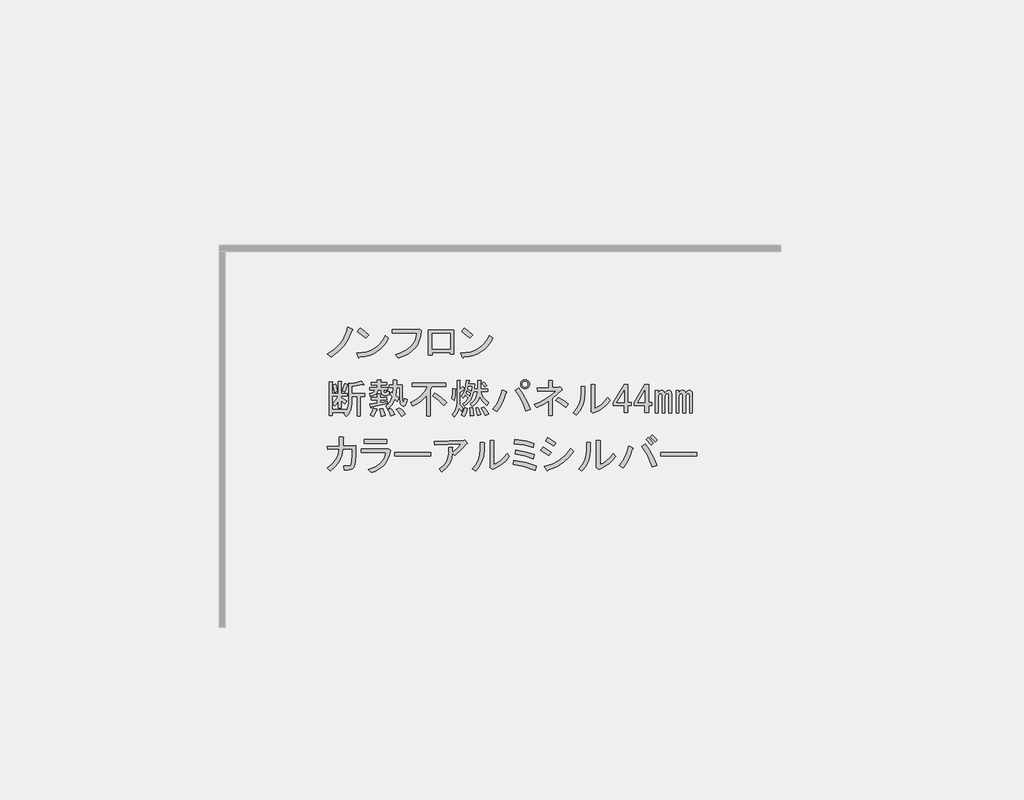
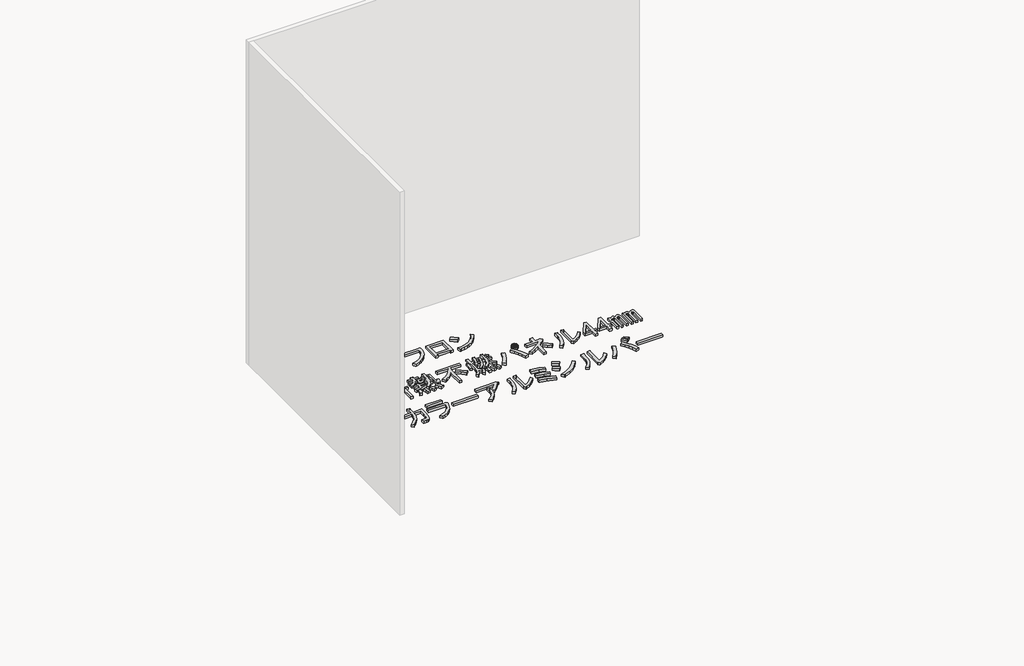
# One storey, part 29 of 117: 1 proxy.
"""IFC4 building model written with IfcOpenShell, lengths in millimetres."""

from ifc_helpers import new_model, si_unit, frame, origin, place, context, project, spatial, polyline, outline, extrude, element, save

model = new_model("IFC4")

# Units and contexts
model_context = context("Model", 3, world=origin())
ifc_project = project(units=[si_unit("LENGTHUNIT", "METRE", prefix="MILLI")], contexts=[model_context])

# Site, building, storey
site = spatial("IfcSite", under=ifc_project)
building = spatial("IfcBuilding", under=site)
storey = spatial("IfcBuildingStorey", under=building, Name="レベル 1", Elevation=500.0)

# Proxy
placement = place(None, origin())
element("IfcBuildingElementProxy", 1, Name="200㎜\u3000MS Pゴシック", ObjectType="200㎜\u3000MS Pゴシック", at=placement, inside=storey, context=model_context, shape_type="SweptSolid", body=[
    extrude(outline(polyline([(943.6706985, -20607.0496882), (918.0952502, -20666.8215225), (889.646156, -20712.7998566), (847.9782907, -20758.2034615), (798.8389462, -20795.560858), (771.2519457, -20773.7211493), (818.9544673, -20743.2605029), (858.6107805, -20704.7536481), (875.9963381, -20680.8305462), (891.3703435, -20652.7406577), (904.7327969, -20620.4839827), (916.0836981, -20584.0605212), (947.1190736, -20597.8540214), (950.2800841, -20602.4518548), (943.6706985, -20607.0496882)])), frame((0.0, 0.0, 500.0), z_axis=(0.0, 0.0, 1.0), x_axis=(1.0, 0.0, 0.0)), (0.0, 0.0, 1.0), 25.0),
    extrude(outline(polyline([(1043.3977052, -20662.2236891), (984.7753292, -20615.0958967), (1004.3161212, -20590.9572713), (1031.6157571, -20610.7854279), (1065.2374138, -20640.3839804), (1043.3977052, -20662.2236891)])), frame((0.0, 0.0, 500.0), z_axis=(0.0, 0.0, 1.0), x_axis=(1.0, 0.0, 0.0)), (0.0, 0.0, 1.0), 25.0),
    extrude(outline(polyline([(1205.4713328, -20662.2236891), (1188.947869, -20691.965924), (1169.8381239, -20717.9724192), (1148.1420975, -20740.2431748), (1123.8597898, -20758.7781907), (1096.9912008, -20773.577467), (1067.5363306, -20784.6410036), (1035.495179, -20791.9688006), (1000.8677461, -20795.560858), (995.1204544, -20803.6070664), (989.3731626, -20797.8597747), (980.1774958, -20767.9738575), (1016.0082679, -20765.2977748), (1048.7857912, -20758.9937141), (1078.5100658, -20749.0616756), (1105.1810916, -20735.5016591), (1128.7988687, -20718.3136646), (1149.363397, -20697.4976923), (1166.8746766, -20673.053742), (1181.3327074, -20644.9818138), (1205.4713328, -20662.2236891)])), frame((0.0, 0.0, 500.0), z_axis=(0.0, 0.0, 1.0), x_axis=(1.0, 0.0, 0.0)), (0.0, 0.0, 1.0), 25.0),
    extrude(outline(polyline([(1256.2314136, -20777.1695243), (1290.014713, -20767.4889298), (1319.5234641, -20755.1142922), (1344.757667, -20740.0456116), (1365.7173217, -20722.282888), (1382.402428, -20701.8261214), (1394.8129862, -20678.6753118), (1402.9489961, -20652.8304591), (1406.8104577, -20624.2915635), (1234.3917049, -20624.2915635), (1234.3917049, -20599.0034798), (1409.1093744, -20599.0034798), (1425.2017914, -20595.5551047), (1437.8458332, -20607.0496882), (1434.325617, -20643.5449909), (1426.0638851, -20676.5919185), (1413.0606375, -20706.1904711), (1395.3158742, -20732.3406486), (1372.8295952, -20755.042451), (1345.6018005, -20774.2958784), (1313.6324901, -20790.1009308), (1276.921664, -20802.4576081), (1256.2314136, -20777.1695243)])), frame((0.0, 0.0, 500.0), z_axis=(0.0, 0.0, 1.0), x_axis=(1.0, 0.0, 0.0)), (0.0, 0.0, 1.0), 25.0),
    extrude(outline(polyline([(1670.955987, -20776.020066), (1644.5184449, -20776.020066), (1644.5184449, -20763.3760241), (1516.9285679, -20763.3760241), (1516.9285679, -20781.7673577), (1490.4910258, -20781.7673577), (1490.4910258, -20602.4518548), (1670.955987, -20602.4518548), (1670.955987, -20776.020066)]), holes=[polyline([(1516.9285679, -20627.7399386), (1516.9285679, -20738.0879404), (1644.5184449, -20738.0879404), (1644.5184449, -20627.7399386), (1516.9285679, -20627.7399386)])]), frame((0.0, 0.0, 500.0), z_axis=(0.0, 0.0, 1.0), x_axis=(1.0, 0.0, 0.0)), (0.0, 0.0, 1.0), 25.0),
    extrude(outline(polyline([(1947.0099049, -20662.2236891), (1930.4864411, -20691.965924), (1911.376696, -20717.9724192), (1889.6806696, -20740.2431748), (1865.3983619, -20758.7781907), (1838.5297729, -20773.577467), (1809.0749026, -20784.6410036), (1777.0337511, -20791.9688006), (1742.4063182, -20795.560858), (1736.6590264, -20803.6070664), (1730.9117347, -20797.8597747), (1721.7160679, -20767.9738575), (1757.5468399, -20765.2977748), (1790.3243633, -20758.9937141), (1820.0486378, -20749.0616756), (1846.7196637, -20735.5016591), (1870.3374407, -20718.3136646), (1890.9019691, -20697.4976923), (1908.4132486, -20673.053742), (1922.8712795, -20644.9818138), (1947.0099049, -20662.2236891)])), frame((0.0, 0.0, 500.0), z_axis=(0.0, 0.0, 1.0), x_axis=(1.0, 0.0, 0.0)), (0.0, 0.0, 1.0), 25.0),
    extrude(outline(polyline([(1784.9362772, -20662.2236891), (1726.3139013, -20615.0958967), (1745.8546933, -20590.9572713), (1773.1543291, -20610.7854279), (1806.7759859, -20640.3839804), (1784.9362772, -20662.2236891)])), frame((0.0, 0.0, 500.0), z_axis=(0.0, 0.0, 1.0), x_axis=(1.0, 0.0, 0.0)), (0.0, 0.0, 1.0), 25.0),
    extrude(outline(polyline([(877.0021141, -21039.2345221), (894.2439894, -20986.3594379), (914.9342397, -20992.1067296), (916.6584273, -20995.2677401), (912.635323, -20997.8540214), (895.3934477, -21046.1312722), (877.0021141, -21039.2345221)])), frame((0.0, 0.0, 500.0), z_axis=(0.0, 0.0, 1.0), x_axis=(1.0, 0.0, 0.0)), (0.0, 0.0, 1.0), 25.0),
    extrude(outline(polyline([(1031.0295333, -20990.9572713), (1029.3053458, -20995.5551047), (1021.8338665, -20993.256188), (944.8201569, -21005.9002299), (944.8201569, -21055.326939), (1036.7768251, -21055.326939), (1036.7768251, -21077.1666477), (1005.7414495, -21077.1666477), (1005.7414495, -21217.4005666), (982.7522825, -21217.4005666), (982.7522825, -21077.1666477), (944.8201569, -21077.1666477), (944.8201569, -21126.5933568), (942.2338756, -21154.3958807), (934.4750317, -21179.1810764), (921.5436253, -21200.948944), (903.4396562, -21219.6994833), (886.1977809, -21200.1586914), (896.5429061, -21190.9630245), (806.8851546, -21190.9630245), (806.8851546, -21212.8027332), (783.8959876, -21212.8027332), (783.8959876, -20973.715396), (805.7356963, -20973.715396), (810.6208943, -20976.0143127), (806.8851546, -20980.6121461), (806.8851546, -21056.4763974), (849.4151137, -21056.4763974), (849.4151137, -20969.1175626), (867.8064473, -20969.1175626), (872.6916453, -20971.4164793), (868.9559057, -20976.0143127), (868.9559057, -21056.4763974), (912.635323, -21056.4763974), (912.635323, -21074.867731), (868.9559057, -21074.867731), (868.9559057, -21084.0633978), (909.186948, -21110.5009399), (895.3934477, -21132.3406486), (868.9559057, -21105.9031065), (868.9559057, -21158.7781907), (849.4151137, -21158.7781907), (849.4151137, -21110.5009399), (836.1963426, -21130.3290965), (821.8281132, -21146.1341488), (809.1840713, -21127.7428152), (831.02378, -21103.6041898), (848.2656553, -21074.867731), (806.8851546, -21074.867731), (806.8851546, -21169.1233159), (904.5891146, -21169.1233159), (904.5891146, -21182.9168161), (917.520521, -21158.7781907), (921.8309898, -21125.4438985), (921.8309898, -20980.6121461), (943.6706985, -20986.3594379), (979.8786366, -20978.8879586), (1010.339283, -20965.6691875), (1031.0295333, -20990.9572713)])), frame((0.0, 0.0, 500.0), z_axis=(0.0, 0.0, 1.0), x_axis=(1.0, 0.0, 0.0)), (0.0, 0.0, 1.0), 25.0),
    extrude(outline(polyline([(822.9775716, -21047.2807305), (810.3335297, -20996.7045631), (829.8743217, -20989.8078129), (837.6331656, -21013.9464383), (842.5183636, -21040.3839804), (822.9775716, -21047.2807305)])), frame((0.0, 0.0, 500.0), z_axis=(0.0, 0.0, 1.0), x_axis=(1.0, 0.0, 0.0)), (0.0, 0.0, 1.0), 25.0),
    extrude(outline(polyline([(1121.8367431, -21167.9738575), (1125.2851182, -21172.8590555), (1119.5378264, -21176.020066), (1109.7674304, -21201.5955143), (1098.8475761, -21220.8489417), (1075.858409, -21209.3543582), (1088.5024509, -21185.790462), (1098.8475761, -21158.7781907), (1121.8367431, -21167.9738575)])), frame((0.0, 0.0, 500.0), z_axis=(0.0, 0.0, 1.0), x_axis=(1.0, 0.0, 0.0)), (0.0, 0.0, 1.0), 25.0),
    extrude(outline(polyline([(1166.6656188, -21163.3760241), (1176.7233794, -21190.67566), (1181.6085774, -21212.8027332), (1152.8721186, -21218.550025), (1150.2858373, -21196.9976809), (1142.5269934, -21166.8243992), (1166.6656188, -21163.3760241)])), frame((0.0, 0.0, 500.0), z_axis=(0.0, 0.0, 1.0), x_axis=(1.0, 0.0, 0.0)), (0.0, 0.0, 1.0), 25.0),
    extrude(outline(polyline([(1281.611454, -21157.6287323), (1306.3248086, -21178.8937119), (1325.2908714, -21203.6070664), (1298.8533293, -21218.550025), (1279.5999019, -21188.9514724), (1260.9212037, -21169.1233159), (1281.611454, -21157.6287323)])), frame((0.0, 0.0, 500.0), z_axis=(0.0, 0.0, 1.0), x_axis=(1.0, 0.0, 0.0)), (0.0, 0.0, 1.0), 25.0),
    extrude(outline(polyline([(1222.9890781, -21216.2511083), (1214.655505, -21191.5377537), (1201.1493694, -21170.2727742), (1221.8396197, -21162.2265657), (1238.7941304, -21183.7789098), (1250.5760785, -21207.0554415), (1222.9890781, -21216.2511083)])), frame((0.0, 0.0, 500.0), z_axis=(0.0, 0.0, 1.0), x_axis=(1.0, 0.0, 0.0)), (0.0, 0.0, 1.0), 25.0),
    extrude(outline(polyline([(1083.9046175, -21153.0308989), (1081.8930654, -21157.9160969), (1078.1573257, -21156.479274), (1072.410034, -21132.3406486), (1127.5840349, -21124.2944401), (1127.5840349, -21101.3052731), (1083.9046175, -21101.3052731), (1083.9046175, -21082.9139395), (1127.5840349, -21082.9139395), (1127.5840349, -21059.9247724), (1145.9753685, -21059.9247724), (1150.8605665, -21062.2236891), (1147.1248268, -21066.8215225), (1147.1248268, -21082.9139395), (1191.9537026, -21082.9139395), (1191.9537026, -21101.3052731), (1147.1248268, -21101.3052731), (1147.1248268, -21120.8460651), (1197.7009943, -21111.6503983), (1197.7009943, -21127.7428152), (1083.9046175, -21153.0308989)])), frame((0.0, 0.0, 500.0), z_axis=(0.0, 0.0, 1.0), x_axis=(1.0, 0.0, 0.0)), (0.0, 0.0, 1.0), 25.0),
    extrude(outline(polyline([(1154.021577, -21031.1883136), (1128.7334932, -21031.1883136), (1124.1356598, -21048.6457123), (1113.7905346, -21061.9363245), (1097.6981177, -21071.0601502), (1075.858409, -21076.0171893), (1071.2605756, -21056.4763974), (1096.5486594, -21047.8554597), (1104.0201386, -21040.5276627), (1108.0432429, -21031.1883136), (1072.410034, -21031.1883136), (1072.410034, -21012.79698), (1126.4345765, -21012.79698), (1126.4345765, -20995.5551047), (1082.7551591, -20995.5551047), (1082.7551591, -20977.1637711), (1126.4345765, -20977.1637711), (1126.4345765, -20958.7724374), (1148.2742852, -20958.7724374), (1153.1594832, -20961.0713541), (1149.4237436, -20965.6691875), (1149.4237436, -20977.1637711), (1191.9537026, -20977.1637711), (1191.9537026, -20995.5551047), (1149.4237436, -20995.5551047), (1149.4237436, -21012.79698), (1202.2988277, -21012.79698), (1202.2988277, -21031.1883136), (1173.5623689, -21031.1883136), (1173.5623689, -21043.8323555), (1174.9991919, -21049.0049181), (1179.3096607, -21050.7291056), (1189.6547859, -21050.7291056), (1193.3905255, -21047.5680951), (1193.1031609, -21038.0850637), (1212.6439529, -21040.3839804), (1209.770307, -21061.9363245), (1204.4540622, -21067.3244106), (1196.551536, -21069.1204392), (1172.4129106, -21069.1204392), (1158.6194104, -21064.2352412), (1154.021577, -21049.5796472), (1154.021577, -21031.1883136)])), frame((0.0, 0.0, 500.0), z_axis=(0.0, 0.0, 1.0), x_axis=(1.0, 0.0, 0.0)), (0.0, 0.0, 1.0), 25.0),
    extrude(outline(polyline([(1285.0598291, -21013.9464383), (1263.2201204, -21013.9464383), (1258.622287, -21071.4193559), (1278.163079, -21089.8106896), (1267.8179538, -21111.6503983), (1251.7255369, -21095.5579813), (1232.4721095, -21133.2027424), (1202.2988277, -21165.6749408), (1185.0569525, -21144.9846905), (1200.1435933, -21133.0590601), (1213.2186821, -21117.9724192), (1224.2822187, -21099.7247679), (1233.3342033, -21078.316106), (1216.092328, -21063.3731475), (1224.1385364, -21046.1312722), (1237.9320367, -21056.4763974), (1240.2309534, -21013.9464383), (1212.6439529, -21013.9464383), (1212.6439529, -20995.5551047), (1240.2309534, -20995.5551047), (1240.2309534, -20961.0713541), (1262.0706621, -20961.0713541), (1266.95586, -20963.3702708), (1263.2201204, -20967.9681043), (1263.2201204, -20995.5551047), (1304.6006211, -20995.5551047), (1304.6006211, -21092.1096063), (1308.0489961, -21116.2482317), (1311.2818477, -21118.2597838), (1314.0836525, -21115.0987733), (1318.3941213, -21093.2590646), (1337.9349133, -21100.1558147), (1333.408921, -21126.9525626), (1325.578236, -21142.9731384), (1314.4428582, -21148.2175421), (1300.0027877, -21142.6857738), (1293.4652433, -21135.3579768), (1288.7955687, -21123.719711), (1285.0598291, -21087.5117729), (1285.0598291, -21013.9464383)])), frame((0.0, 0.0, 500.0), z_axis=(0.0, 0.0, 1.0), x_axis=(1.0, 0.0, 0.0)), (0.0, 0.0, 1.0), 25.0),
    extrude(outline(polyline([(1373.5681222, -20980.6121461), (1614.9543761, -20980.6121461), (1614.9543761, -21005.9002299), (1514.9514995, -21005.9002299), (1504.6063743, -21030.0388553), (1504.6063743, -21216.2511083), (1478.1688322, -21216.2511083), (1478.1688322, -21069.1204392), (1457.3348996, -21092.3969709), (1433.9146857, -21112.7998566), (1407.9081905, -21130.3290965), (1379.315414, -21144.9846905), (1363.222997, -21118.5471484), (1402.807469, -21098.1442626), (1436.500967, -21072.5688143), (1464.3034909, -21041.8208034), (1486.2150407, -21005.9002299), (1373.5681222, -21005.9002299), (1373.5681222, -20980.6121461)])), frame((0.0, 0.0, 500.0), z_axis=(0.0, 0.0, 1.0), x_axis=(1.0, 0.0, 0.0)), (0.0, 0.0, 1.0), 25.0),
    extrude(outline(polyline([(1600.0114176, -21141.5363154), (1560.9298336, -21103.3168252), (1519.5493329, -21073.7182726), (1535.6417498, -21053.0280223), (1579.3211672, -21081.1897519), (1620.7016679, -21119.6966067), (1600.0114176, -21141.5363154)])), frame((0.0, 0.0, 500.0), z_axis=(0.0, 0.0, 1.0), x_axis=(1.0, 0.0, 0.0)), (0.0, 0.0, 1.0), 25.0),
    extrude(outline(polyline([(1767.832337, -21163.3760241), (1759.2113993, -21193.8366704), (1744.8431699, -21220.8489417), (1725.3023779, -21208.2048998), (1739.3832427, -21183.4915453), (1749.4410033, -21155.3298156), (1767.832337, -21163.3760241)])), frame((0.0, 0.0, 500.0), z_axis=(0.0, 0.0, 1.0), x_axis=(1.0, 0.0, 0.0)), (0.0, 0.0, 1.0), 25.0),
    extrude(outline(polyline([(1682.7724189, -21025.4410219), (1687.3702523, -21027.7399386), (1682.7724189, -21032.337772), (1681.6229605, -21071.9940851), (1675.8756688, -21105.9031065), (1657.4843352, -21093.2590646), (1663.2316269, -21058.7753141), (1664.3810853, -21021.9926468), (1682.7724189, -21025.4410219)])), frame((0.0, 0.0, 500.0), z_axis=(0.0, 0.0, 1.0), x_axis=(1.0, 0.0, 0.0)), (0.0, 0.0, 1.0), 25.0),
    extrude(outline(polyline([(1734.4980447, -21007.0496882), (1743.6937116, -21024.2915635), (1745.1305345, -21030.3262199), (1740.2453365, -21030.0388553), (1713.8077944, -21050.7291056), (1713.8077944, -21134.6395653), (1727.6012946, -21146.9962426), (1739.0958781, -21163.3760241), (1726.4518363, -21184.0662744), (1708.0605026, -21158.7781907), (1696.2785545, -21194.6987642), (1674.7262104, -21224.2973168), (1659.7832519, -21205.9059831), (1674.8698927, -21187.1554438), (1685.6460648, -21166.5370346), (1692.111768, -21144.0507556), (1694.2670024, -21119.6966067), (1694.2670024, -20962.2208125), (1712.6583361, -20962.2208125), (1717.543534, -20964.5197292), (1713.8077944, -20969.1175626), (1713.8077944, -21027.7399386), (1734.4980447, -21007.0496882)])), frame((0.0, 0.0, 500.0), z_axis=(0.0, 0.0, 1.0), x_axis=(1.0, 0.0, 0.0)), (0.0, 0.0, 1.0), 25.0),
    extrude(outline(polyline([(1885.0770889, -20976.0143127), (1906.9167975, -21000.1529381), (1889.6749223, -21011.6475216), (1883.0655367, -21000.1529381), (1870.1341303, -20986.3594379), (1885.0770889, -20976.0143127)])), frame((0.0, 0.0, 500.0), z_axis=(0.0, 0.0, 1.0), x_axis=(1.0, 0.0, 0.0)), (0.0, 0.0, 1.0), 25.0),
    extrude(outline(polyline([(1895.422214, -21212.8027332), (1882.203443, -21184.6410036), (1865.5362969, -21159.927649), (1883.9276305, -21151.8814406), (1902.8936933, -21174.8706076), (1918.4113811, -21202.4576081), (1895.422214, -21212.8027332)])), frame((0.0, 0.0, 500.0), z_axis=(0.0, 0.0, 1.0), x_axis=(1.0, 0.0, 0.0)), (0.0, 0.0, 1.0), 25.0),
    extrude(outline(polyline([(1845.9955049, -21157.6287323), (1864.3868385, -21207.0554415), (1840.2482131, -21211.6532749), (1826.4547129, -21161.0771074), (1845.9955049, -21157.6287323)])), frame((0.0, 0.0, 500.0), z_axis=(0.0, 0.0, 1.0), x_axis=(1.0, 0.0, 0.0)), (0.0, 0.0, 1.0), 25.0),
    extrude(outline(polyline([(1787.3731289, -21215.1016499), (1787.9478581, -21188.0893787), (1785.0742122, -21159.927649), (1804.6150042, -21158.7781907), (1810.9370252, -21184.9283682), (1811.5117543, -21212.8027332), (1787.3731289, -21215.1016499)])), frame((0.0, 0.0, 500.0), z_axis=(0.0, 0.0, 1.0), x_axis=(1.0, 0.0, 0.0)), (0.0, 0.0, 1.0), 25.0),
    extrude(outline(polyline([(1906.9167975, -21142.6857738), (1876.1687866, -21112.2251274), (1855.1911717, -21078.316106), (1846.7857575, -21100.4431793), (1835.3630151, -21119.6966067), (1820.9229446, -21136.0763882), (1803.4655459, -21149.5825239), (1789.6720456, -21131.1911902), (1810.5059783, -21112.2969686), (1825.8799837, -21091.2475125), (1835.794062, -21068.042822), (1840.2482131, -21042.6828971), (1811.5117543, -21042.6828971), (1803.537387, -21073.2872258), (1789.9594102, -21100.7305439), (1770.777824, -21125.0128516), (1745.9926283, -21146.1341488), (1733.3485864, -21130.0417319), (1759.2113993, -21108.4893878), (1774.7290871, -21087.5117729), (1752.8893784, -21067.9709809), (1739.0958781, -21088.6612312), (1725.3023779, -21073.7182726), (1737.7308964, -21054.6803687), (1747.4294512, -21029.7514907), (1754.3980425, -20998.9316386), (1758.6366701, -20962.2208125), (1779.3269205, -20964.5197292), (1782.7752955, -20967.1060105), (1777.0280038, -20970.267021), (1774.7290871, -20988.6583546), (1818.4085044, -20988.6583546), (1814.9601294, -21024.2915635), (1840.2482131, -21024.2915635), (1840.2482131, -20962.2208125), (1862.0879218, -20962.2208125), (1866.9731198, -20964.5197292), (1863.2373802, -20969.1175626), (1863.2373802, -21024.2915635), (1912.6640893, -21024.2915635), (1912.6640893, -21042.6828971), (1863.2373802, -21042.6828971), (1869.7749245, -21064.4507647), (1881.3413492, -21084.9254916), (1897.9366542, -21104.1070778), (1919.5608394, -21121.9955234), (1906.9167975, -21142.6857738)]), holes=[polyline([(1782.7752955, -21072.5688143), (1789.6720456, -21053.0280223), (1764.3839619, -21036.9356054), (1758.6366701, -21054.1774807), (1782.7752955, -21072.5688143)]), polyline([(1772.4301704, -21007.0496882), (1768.9817953, -21023.1421052), (1794.269879, -21036.9356054), (1798.8677125, -21007.0496882), (1772.4301704, -21007.0496882)])]), frame((0.0, 0.0, 500.0), z_axis=(0.0, 0.0, 1.0), x_axis=(1.0, 0.0, 0.0)), (0.0, 0.0, 1.0), 25.0),
    extrude(outline(polyline([(2132.2106345, -21016.245355), (2158.8637001, -21052.9561812), (2181.3499791, -21090.6727833), (2199.6694716, -21129.3951616), (2213.8221775, -21169.1233159), (2182.786802, -21179.468441), (2167.3409554, -21136.3637528), (2149.7398744, -21097.856898), (2129.983559, -21063.9478766), (2108.0720092, -21034.6366887), (2132.2106345, -21016.245355)])), frame((0.0, 0.0, 500.0), z_axis=(0.0, 0.0, 1.0), x_axis=(1.0, 0.0, 0.0)), (0.0, 0.0, 1.0), 25.0),
    extrude(outline(polyline([(2044.8517998, -21042.6828971), (2048.874904, -21048.1428243), (2042.5528831, -21053.0280223), (2030.6272527, -21088.4457078), (2015.5406118, -21122.282888), (1997.2929605, -21154.539563), (1975.8842987, -21185.2157328), (1949.4467566, -21167.9738575), (1972.6514471, -21136.5074351), (1991.689351, -21103.0294606), (2006.5604684, -21067.539934), (2017.2647993, -21030.0388553), (2044.8517998, -21042.6828971)])), frame((0.0, 0.0, 500.0), z_axis=(0.0, 0.0, 1.0), x_axis=(1.0, 0.0, 0.0)), (0.0, 0.0, 1.0), 25.0),
    extrude(outline(polyline([(2178.1889686, -21021.9926468), (2165.5449268, -21019.6937301), (2155.1998016, -21012.79698), (2148.3030515, -21002.4518548), (2146.0041348, -20989.8078129), (2148.3030515, -20977.1637711), (2155.1998016, -20966.8186459), (2165.5449268, -20959.9218958), (2178.1889686, -20957.6229791), (2190.8330105, -20959.9218958), (2201.1781357, -20966.8186459), (2208.0748858, -20977.1637711), (2210.3738025, -20989.8078129), (2208.0748858, -21002.4518548), (2201.1781357, -21012.79698), (2190.8330105, -21019.6937301), (2178.1889686, -21021.9926468)]), holes=[polyline([(2178.1889686, -21010.4980633), (2186.5225417, -21009.0612403), (2193.1319272, -21004.7507715), (2197.442396, -20998.141386), (2198.879219, -20989.8078129), (2197.442396, -20981.4742399), (2193.1319272, -20974.8648544), (2186.5225417, -20970.5543855), (2178.1889686, -20969.1175626), (2169.8553956, -20970.5543855), (2163.2460101, -20974.8648544), (2158.9355412, -20981.4742399), (2157.4987183, -20989.8078129), (2158.9355412, -20998.141386), (2163.2460101, -21004.7507715), (2169.8553956, -21009.0612403), (2178.1889686, -21010.4980633)])]), frame((0.0, 0.0, 500.0), z_axis=(0.0, 0.0, 1.0), x_axis=(1.0, 0.0, 0.0)), (0.0, 0.0, 1.0), 25.0),
    extrude(outline(polyline([(2421.8741393, -21011.6475216), (2428.7708894, -21009.3486049), (2441.4149312, -21026.5904802), (2442.5643896, -21032.6251366), (2436.8170978, -21034.6366887), (2373.5968885, -21090.9601479), (2373.5968885, -21211.6532749), (2347.1593464, -21211.6532749), (2347.1593464, -21109.3514816), (2306.9283041, -21133.4901069), (2262.0994283, -21155.3298156), (2242.5586363, -21134.6395653), (2288.1059235, -21115.1706145), (2329.3427419, -21092.3969709), (2366.2690915, -21066.3186345), (2398.8849722, -21036.9356054), (2268.9961784, -21042.6828971), (2265.5478034, -21017.3948134), (2347.1593464, -21015.0958967), (2347.1593464, -20963.3702708), (2370.1485134, -20963.3702708), (2376.1831698, -20966.8186459), (2373.5968885, -20972.5659377), (2373.5968885, -21013.9464383), (2421.8741393, -21011.6475216)])), frame((0.0, 0.0, 500.0), z_axis=(0.0, 0.0, 1.0), x_axis=(1.0, 0.0, 0.0)), (0.0, 0.0, 1.0), 25.0),
    extrude(outline(polyline([(2467.8524733, -21155.3298156), (2430.7824415, -21126.0186277), (2397.7355139, -21104.7536481), (2414.9773892, -21082.9139395), (2453.7716085, -21106.1904711), (2487.3932653, -21132.3406486), (2467.8524733, -21155.3298156)])), frame((0.0, 0.0, 500.0), z_axis=(0.0, 0.0, 1.0), x_axis=(1.0, 0.0, 0.0)), (0.0, 0.0, 1.0), 25.0),
    extrude(outline(polyline([(2674.8469334, -21162.2265657), (2699.6321291, -21150.0135708), (2723.4115488, -21132.9153778), (2746.1851924, -21110.9319868), (2767.9530599, -21084.0633978), (2784.0454768, -21105.9031065), (2760.7689452, -21133.7056304), (2734.6187677, -21157.3413678), (2705.5949443, -21176.8103186), (2673.697475, -21192.1124829), (2664.5018082, -21196.7103163), (2646.1104746, -21182.9168161), (2648.4093913, -21177.1695243), (2648.4093913, -20992.1067296), (2672.5480167, -20992.1067296), (2678.2953084, -20995.5551047), (2674.8469334, -21001.3023965), (2674.8469334, -21162.2265657)])), frame((0.0, 0.0, 500.0), z_axis=(0.0, 0.0, 1.0), x_axis=(1.0, 0.0, 0.0)), (0.0, 0.0, 1.0), 25.0),
    extrude(outline(polyline([(2520.8195142, -21193.2619413), (2545.9639157, -21164.0225944), (2563.9242024, -21131.4785548), (2574.7003745, -21095.6298225), (2578.2924318, -21056.4763974), (2578.2924318, -21004.7507715), (2602.4310572, -21004.7507715), (2608.178349, -21008.1991466), (2604.7299739, -21013.9464383), (2604.7299739, -21055.326939), (2600.9223931, -21101.0897496), (2589.4996507, -21141.82368), (2570.4617468, -21177.5287301), (2543.8086812, -21208.2048998), (2520.8195142, -21193.2619413)])), frame((0.0, 0.0, 500.0), z_axis=(0.0, 0.0, 1.0), x_axis=(1.0, 0.0, 0.0)), (0.0, 0.0, 1.0), 25.0),
    extrude(outline(polyline([(2884.0483535, -20993.256188), (2910.4858955, -20993.256188), (2910.4858955, -21119.6966067), (2934.6245209, -21119.6966067), (2934.6245209, -21141.5363154), (2910.4858955, -21141.5363154), (2910.4858955, -21192.1124829), (2884.0483535, -21192.1124829), (2884.0483535, -21141.5363154), (2807.0346439, -21141.5363154), (2807.0346439, -21118.5471484), (2884.0483535, -20993.256188)]), holes=[polyline([(2884.0483535, -21035.786147), (2832.3227276, -21119.6966067), (2884.0483535, -21119.6966067), (2884.0483535, -21035.786147)])]), frame((0.0, 0.0, 500.0), z_axis=(0.0, 0.0, 1.0), x_axis=(1.0, 0.0, 0.0)), (0.0, 0.0, 1.0), 25.0),
    extrude(outline(polyline([(3031.1790225, -20993.256188), (3057.6165646, -20993.256188), (3057.6165646, -21119.6966067), (3081.75519, -21119.6966067), (3081.75519, -21141.5363154), (3057.6165646, -21141.5363154), (3057.6165646, -21192.1124829), (3031.1790225, -21192.1124829), (3031.1790225, -21141.5363154), (2954.1653129, -21141.5363154), (2954.1653129, -21118.5471484), (3031.1790225, -20993.256188)]), holes=[polyline([(3031.1790225, -21035.786147), (2979.4533967, -21119.6966067), (3031.1790225, -21119.6966067), (3031.1790225, -21035.786147)])]), frame((0.0, 0.0, 500.0), z_axis=(0.0, 0.0, 1.0), x_axis=(1.0, 0.0, 0.0)), (0.0, 0.0, 1.0), 25.0),
    extrude(outline(polyline([(3125.4346074, -21193.2619413), (3105.8938154, -21193.2619413), (3105.8938154, -21035.786147), (3125.4346074, -21035.786147), (3125.4346074, -21053.0280223), (3137.5039201, -21037.5103346), (3150.7226911, -21032.337772), (3159.9183579, -21033.7745949), (3166.8151081, -21038.0850637), (3173.7118582, -21051.878564), (3186.6432646, -21037.22297), (3200.1494003, -21032.337772), (3208.4829733, -21033.7745949), (3215.0923588, -21038.0850637), (3220.2649214, -21046.7060014), (3221.989109, -21058.7753141), (3221.989109, -21193.2619413), (3202.448317, -21193.2619413), (3202.448317, -21069.1204392), (3199.8620357, -21059.6374078), (3192.1031918, -21056.4763974), (3181.7580666, -21061.0742308), (3175.7234103, -21069.6951684), (3173.7118582, -21079.4655644), (3173.7118582, -21193.2619413), (3154.1710662, -21193.2619413), (3154.1710662, -21069.1204392), (3151.5847849, -21059.6374078), (3143.825941, -21056.4763974), (3133.4808158, -21061.0742308), (3127.4461595, -21069.6951684), (3125.4346074, -21079.4655644), (3125.4346074, -21193.2619413)])), frame((0.0, 0.0, 500.0), z_axis=(0.0, 0.0, 1.0), x_axis=(1.0, 0.0, 0.0)), (0.0, 0.0, 1.0), 25.0),
    extrude(outline(polyline([(3347.2800693, -21032.337772), (3355.6136424, -21033.7745949), (3362.2230279, -21038.0850637), (3367.3955905, -21046.7060014), (3369.119778, -21058.7753141), (3369.119778, -21193.2619413), (3349.578986, -21193.2619413), (3349.578986, -21069.1204392), (3346.9927047, -21059.6374078), (3339.2338609, -21056.4763974), (3328.8887357, -21061.0742308), (3322.8540793, -21069.6951684), (3320.8425272, -21079.4655644), (3320.8425272, -21193.2619413), (3301.3017352, -21193.2619413), (3301.3017352, -21069.1204392), (3298.715454, -21059.6374078), (3290.9566101, -21056.4763974), (3280.6114849, -21061.0742308), (3274.5768286, -21069.6951684), (3272.5652764, -21079.4655644), (3272.5652764, -21193.2619413), (3253.0244845, -21193.2619413), (3253.0244845, -21035.786147), (3272.5652764, -21035.786147), (3272.5652764, -21053.0280223), (3284.6345891, -21037.5103346), (3297.8533602, -21032.337772), (3307.049027, -21033.7745949), (3313.9457771, -21038.0850637), (3320.8425272, -21051.878564), (3333.7739337, -21037.22297), (3347.2800693, -21032.337772)])), frame((0.0, 0.0, 500.0), z_axis=(0.0, 0.0, 1.0), x_axis=(1.0, 0.0, 0.0)), (0.0, 0.0, 1.0), 25.0),
    extrude(outline(polyline([(947.1190736, -21450.7291056), (881.5999475, -21453.0280223), (873.3382156, -21499.293721), (855.44977, -21540.3868571), (827.9346107, -21576.3074306), (790.7927377, -21607.0554415), (771.2519457, -21587.5146495), (806.2385843, -21559.2810787), (831.8858738, -21527.4554506), (848.1938142, -21492.0377651), (855.1624054, -21453.0280223), (773.5508624, -21455.326939), (771.2519457, -21432.337772), (856.3118638, -21430.0388553), (856.3118638, -21365.6691875), (880.4504892, -21365.6691875), (887.3472393, -21369.1175626), (882.7494059, -21374.8648544), (882.7494059, -21430.0388553), (973.5566157, -21426.5904802), (973.5566157, -21497.856898), (970.9703344, -21545.8467842), (963.2114905, -21577.1695243), (956.602105, -21587.2272849), (947.1190736, -21594.4113996), (934.7623963, -21598.7218684), (919.5320731, -21600.1586914), (891.9450727, -21600.1586914), (888.4966976, -21571.4222326), (918.3826148, -21573.7211493), (932.4634796, -21570.8475034), (940.2223235, -21562.2265657), (945.3948861, -21536.938482), (947.1190736, -21497.856898), (947.1190736, -21450.7291056)])), frame((0.0, 0.0, 500.0), z_axis=(0.0, 0.0, 1.0), x_axis=(1.0, 0.0, 0.0)), (0.0, 0.0, 1.0), 25.0),
    extrude(outline(polyline([(1191.8617459, -21410.4980633), (1033.2364933, -21410.4980633), (1033.2364933, -21385.2099795), (1191.8617459, -21385.2099795), (1191.8617459, -21410.4980633)])), frame((0.0, 0.0, 500.0), z_axis=(0.0, 0.0, 1.0), x_axis=(1.0, 0.0, 0.0)), (0.0, 0.0, 1.0), 25.0),
    extrude(outline(polyline([(1061.9729521, -21596.7103163), (1111.6151847, -21578.3908238), (1131.8564279, -21566.2676303), (1149.0444223, -21552.1688052), (1163.179168, -21536.0943485), (1174.2606649, -21518.0442603), (1182.2889131, -21498.0185406), (1187.2639125, -21476.0171893), (1012.546243, -21476.0171893), (1012.546243, -21450.7291056), (1188.4133709, -21450.7291056), (1198.758496, -21447.2807305), (1219.4487464, -21459.9247724), (1222.3223922, -21465.3846996), (1217.1498297, -21470.2698976), (1211.0253719, -21497.7491363), (1201.8476653, -21522.7139349), (1189.6167101, -21545.1642933), (1174.332506, -21565.1002116), (1155.9950533, -21582.5216898), (1134.6043517, -21597.4287278), (1110.1604015, -21609.8213256), (1082.6632025, -21619.6994833), (1061.9729521, -21596.7103163)])), frame((0.0, 0.0, 500.0), z_axis=(0.0, 0.0, 1.0), x_axis=(1.0, 0.0, 0.0)), (0.0, 0.0, 1.0), 25.0),
    extrude(outline(polyline([(1250.8979269, -21501.3052731), (1250.8979269, -21476.0171893), (1507.2271394, -21476.0171893), (1507.2271394, -21501.3052731), (1250.8979269, -21501.3052731)])), frame((0.0, 0.0, 500.0), z_axis=(0.0, 0.0, 1.0), x_axis=(1.0, 0.0, 0.0)), (0.0, 0.0, 1.0), 25.0),
    extrude(outline(polyline([(1659.8292302, -21478.316106), (1656.0216494, -21519.5529244), (1642.2999903, -21555.9045448), (1618.664253, -21587.3709672), (1585.1144373, -21613.9521916), (1565.5736453, -21592.1124829), (1595.244039, -21571.8532794), (1616.4371774, -21547.8583363), (1629.1530604, -21520.1276536), (1633.3916881, -21488.6612312), (1633.3916881, -21439.2345221), (1657.5303135, -21439.2345221), (1663.2776052, -21441.8208034), (1659.8292302, -21447.2807305), (1659.8292302, -21477.1666477), (1696.3245329, -21446.4186368), (1723.0494396, -21416.245355), (1535.6877282, -21423.1421052), (1533.3888115, -21396.7045631), (1742.5902315, -21390.9572713), (1750.63644, -21388.6583546), (1767.8783153, -21409.3486049), (1768.1656799, -21412.5096154), (1762.1310235, -21412.79698), (1724.1988979, -21456.1890328), (1679.3700222, -21496.7074397), (1659.8292302, -21478.316106)])), frame((0.0, 0.0, 500.0), z_axis=(0.0, 0.0, 1.0), x_axis=(1.0, 0.0, 0.0)), (0.0, 0.0, 1.0), 25.0),
    extrude(outline(polyline([(1802.8218492, -21593.2619413), (1827.9662506, -21564.0225944), (1845.9265374, -21531.4785548), (1856.7027094, -21495.6298225), (1860.2947668, -21456.4763974), (1860.2947668, -21404.7507715), (1884.4333922, -21404.7507715), (1890.1806839, -21408.1991466), (1886.7323089, -21413.9464383), (1886.7323089, -21455.326939), (1882.9247281, -21501.0897496), (1871.5019857, -21541.82368), (1852.4640818, -21577.5287301), (1825.8110162, -21608.2048998), (1802.8218492, -21593.2619413)])), frame((0.0, 0.0, 500.0), z_axis=(0.0, 0.0, 1.0), x_axis=(1.0, 0.0, 0.0)), (0.0, 0.0, 1.0), 25.0),
    extrude(outline(polyline([(1956.8492684, -21562.2265657), (1981.6344641, -21550.0135708), (2005.4138837, -21532.9153778), (2028.1875273, -21510.9319868), (2049.9553949, -21484.0633978), (2066.0478118, -21505.9031065), (2042.7712802, -21533.7056304), (2016.6211027, -21557.3413678), (1987.5972793, -21576.8103186), (1955.69981, -21592.1124829), (1946.5041432, -21596.7103163), (1928.1128096, -21582.9168161), (1930.4117263, -21577.1695243), (1930.4117263, -21392.1067296), (1954.5503517, -21392.1067296), (1960.2976434, -21395.5551047), (1956.8492684, -21401.3023965), (1956.8492684, -21562.2265657)])), frame((0.0, 0.0, 500.0), z_axis=(0.0, 0.0, 1.0), x_axis=(1.0, 0.0, 0.0)), (0.0, 0.0, 1.0), 25.0),
    extrude(outline(polyline([(2106.2788541, -21384.0605212), (2187.3156679, -21395.8424693), (2241.9149397, -21410.4980633), (2235.0181896, -21440.3839804), (2173.2348031, -21423.4294697), (2102.8304791, -21413.9464383), (2106.2788541, -21384.0605212)])), frame((0.0, 0.0, 500.0), z_axis=(0.0, 0.0, 1.0), x_axis=(1.0, 0.0, 0.0)), (0.0, 0.0, 1.0), 25.0),
    extrude(outline(polyline([(2237.3171063, -21520.8460651), (2180.7062824, -21502.1673669), (2107.4283125, -21487.5117729), (2110.8766875, -21459.9247724), (2180.1315532, -21471.9940851), (2245.3633147, -21492.1096063), (2237.3171063, -21520.8460651)])), frame((0.0, 0.0, 500.0), z_axis=(0.0, 0.0, 1.0), x_axis=(1.0, 0.0, 0.0)), (0.0, 0.0, 1.0), 25.0),
    extrude(outline(polyline([(2251.1106065, -21604.7565248), (2167.4875114, -21577.4568889), (2093.6348123, -21562.2265657), (2099.382104, -21532.3406486), (2184.1546575, -21549.0077947), (2259.1568149, -21573.7211493), (2251.1106065, -21604.7565248)])), frame((0.0, 0.0, 500.0), z_axis=(0.0, 0.0, 1.0), x_axis=(1.0, 0.0, 0.0)), (0.0, 0.0, 1.0), 25.0),
    extrude(outline(polyline([(2306.8823257, -21438.0850637), (2365.5047017, -21474.867731), (2347.113368, -21499.0063564), (2289.6404504, -21462.2236891), (2306.8823257, -21438.0850637)])), frame((0.0, 0.0, 500.0), z_axis=(0.0, 0.0, 1.0), x_axis=(1.0, 0.0, 0.0)), (0.0, 0.0, 1.0), 25.0),
    extrude(outline(polyline([(2339.0671596, -21370.267021), (2397.6895355, -21407.0496882), (2381.5971186, -21431.1883136), (2324.124201, -21394.4056463), (2339.0671596, -21370.267021)])), frame((0.0, 0.0, 500.0), z_axis=(0.0, 0.0, 1.0), x_axis=(1.0, 0.0, 0.0)), (0.0, 0.0, 1.0), 25.0),
    extrude(outline(polyline([(2314.9285342, -21577.1695243), (2373.6945924, -21558.7063495), (2424.7018068, -21530.9038257), (2467.9501773, -21493.7619527), (2503.4397039, -21447.2807305), (2524.1299543, -21467.9709809), (2490.7956621, -21511.6503983), (2449.4151614, -21548.4330655), (2399.9884522, -21578.3189827), (2342.5155346, -21601.3081497), (2337.9177012, -21608.4922644), (2331.0209511, -21602.4576081), (2314.9285342, -21577.1695243)])), frame((0.0, 0.0, 500.0), z_axis=(0.0, 0.0, 1.0), x_axis=(1.0, 0.0, 0.0)), (0.0, 0.0, 1.0), 25.0),
    extrude(outline(polyline([(2559.0734882, -21593.2619413), (2584.2178896, -21564.0225944), (2602.1781764, -21531.4785548), (2612.9543484, -21495.6298225), (2616.5464058, -21456.4763974), (2616.5464058, -21404.7507715), (2640.6850312, -21404.7507715), (2646.4323229, -21408.1991466), (2642.9839479, -21413.9464383), (2642.9839479, -21455.326939), (2639.1763671, -21501.0897496), (2627.7536247, -21541.82368), (2608.7157207, -21577.5287301), (2582.0626552, -21608.2048998), (2559.0734882, -21593.2619413)])), frame((0.0, 0.0, 500.0), z_axis=(0.0, 0.0, 1.0), x_axis=(1.0, 0.0, 0.0)), (0.0, 0.0, 1.0), 25.0),
    extrude(outline(polyline([(2713.1009073, -21562.2265657), (2737.8861031, -21550.0135708), (2761.6655227, -21532.9153778), (2784.4391663, -21510.9319868), (2806.2070339, -21484.0633978), (2822.2994508, -21505.9031065), (2799.0229192, -21533.7056304), (2772.8727416, -21557.3413678), (2743.8489183, -21576.8103186), (2711.951449, -21592.1124829), (2702.7557822, -21596.7103163), (2684.3644485, -21582.9168161), (2686.6633652, -21577.1695243), (2686.6633652, -21392.1067296), (2710.8019906, -21392.1067296), (2716.5492824, -21395.5551047), (2713.1009073, -21401.3023965), (2713.1009073, -21562.2265657)])), frame((0.0, 0.0, 500.0), z_axis=(0.0, 0.0, 1.0), x_axis=(1.0, 0.0, 0.0)), (0.0, 0.0, 1.0), 25.0),
    extrude(outline(polyline([(3032.6503292, -21416.245355), (3059.3033947, -21452.9561812), (3081.7896738, -21490.6727833), (3100.1091662, -21529.3951616), (3114.2618722, -21569.1233159), (3083.2264967, -21579.468441), (3067.7806501, -21536.3637528), (3050.1795691, -21497.856898), (3030.4232536, -21463.9478766), (3008.5117038, -21434.6366887), (3032.6503292, -21416.245355)])), frame((0.0, 0.0, 500.0), z_axis=(0.0, 0.0, 1.0), x_axis=(1.0, 0.0, 0.0)), (0.0, 0.0, 1.0), 25.0),
    extrude(outline(polyline([(2945.2914944, -21442.6828971), (2949.3145987, -21448.1428243), (2942.9925777, -21453.0280223), (2931.0669473, -21488.4457078), (2915.9803065, -21522.282888), (2897.7326551, -21554.539563), (2876.3239933, -21585.2157328), (2849.8864512, -21567.9738575), (2873.0911417, -21536.5074351), (2892.1290457, -21503.0294606), (2907.0001631, -21467.539934), (2917.704494, -21430.0388553), (2945.2914944, -21442.6828971)])), frame((0.0, 0.0, 500.0), z_axis=(0.0, 0.0, 1.0), x_axis=(1.0, 0.0, 0.0)), (0.0, 0.0, 1.0), 25.0),
    extrude(outline(polyline([(3083.2264967, -21353.0251457), (3120.009164, -21388.6583546), (3105.0662054, -21402.4518548), (3068.2835381, -21365.6691875), (3083.2264967, -21353.0251457)])), frame((0.0, 0.0, 500.0), z_axis=(0.0, 0.0, 1.0), x_axis=(1.0, 0.0, 0.0)), (0.0, 0.0, 1.0), 25.0),
    extrude(outline(polyline([(3055.6394962, -21370.267021), (3092.4221635, -21409.3486049), (3075.1802882, -21421.9926468), (3039.5470793, -21382.9110628), (3055.6394962, -21370.267021)])), frame((0.0, 0.0, 500.0), z_axis=(0.0, 0.0, 1.0), x_axis=(1.0, 0.0, 0.0)), (0.0, 0.0, 1.0), 25.0),
    extrude(outline(polyline([(3142.998331, -21501.3052731), (3142.998331, -21476.0171893), (3399.3275435, -21476.0171893), (3399.3275435, -21501.3052731), (3142.998331, -21501.3052731)])), frame((0.0, 0.0, 500.0), z_axis=(0.0, 0.0, 1.0), x_axis=(1.0, 0.0, 0.0)), (0.0, 0.0, 1.0), 25.0),
])

save(model, "model.ifc")
